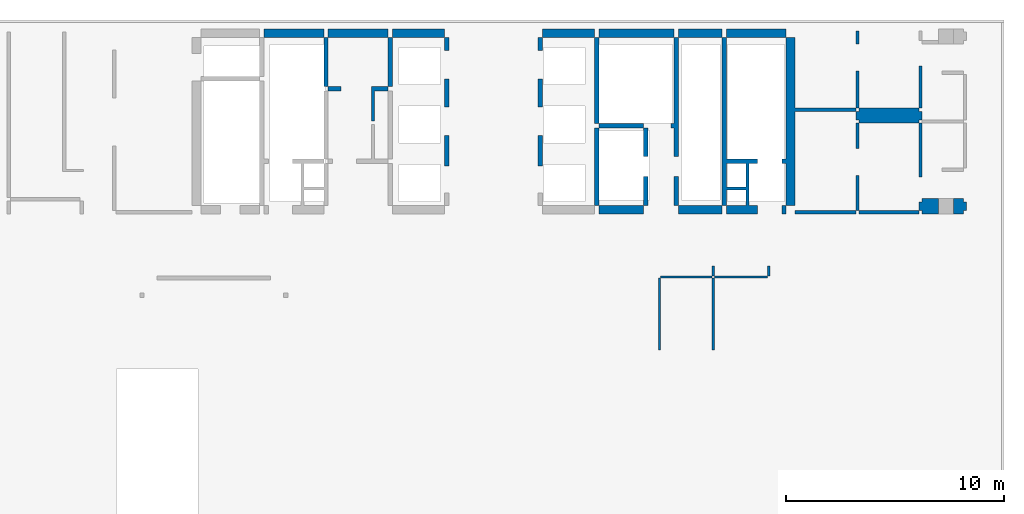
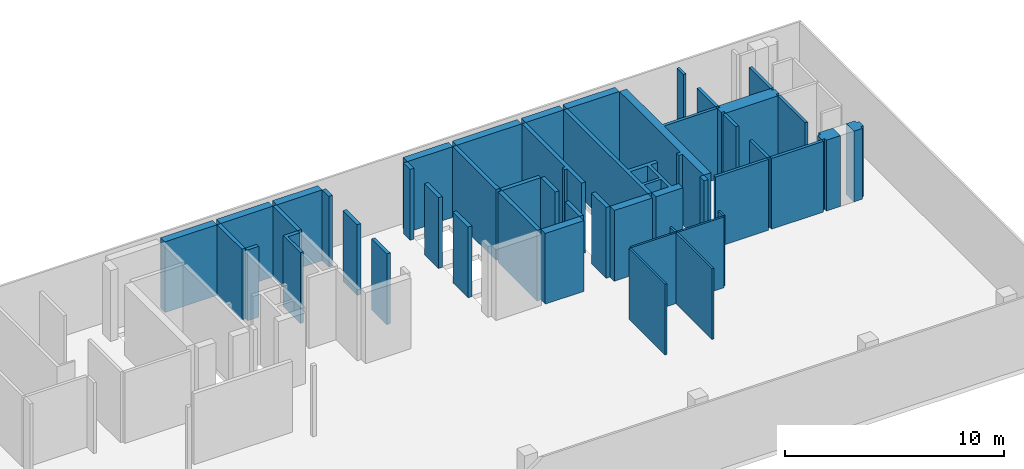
# One storey, part 2 of 4: 46 walls.
"""IFC4 building model written with IfcOpenShell, lengths in millimetres."""

from ifc_helpers import new_model, si_unit, frame, origin, place, context, project, spatial, triangles, element, save


model = new_model("IFC4")

# Units and contexts
model_context = context("Model", 3, precision=0.001, world=origin())
ifc_project = project(units=[si_unit("LENGTHUNIT", "METRE", prefix="MILLI"), si_unit("AREAUNIT", "SQUARE_METRE"), si_unit("VOLUMEUNIT", "CUBIC_METRE")], contexts=[model_context])

# Site, building, storey
site_placement = place(None, origin())
site = spatial("IfcSite", under=ifc_project, at=site_placement, Name="Site", CompositionType="ELEMENT")
building_placement = place(site_placement, origin())
building = spatial("IfcBuilding", under=site, at=building_placement, Name="INNOCEAN", CompositionType="ELEMENT")
storey_placement = place(building_placement, frame((0.0, 0.0, 42800.0)))
storey = spatial("IfcBuildingStorey", under=building, at=storey_placement, Name="F10", CompositionType="ELEMENT", Elevation=42800.0)

# Walls
wall_1_placement = place(storey_placement, origin())
element("IfcWall", 1, at=wall_1_placement, inside=storey, Name="F10_Walls_F10_022", context=model_context, shape_type="Tessellation", body=[
    triangles([(16429.3, 25025.8, 0.0), (19183.7, 25025.8, 0.0), (19183.7, 25025.8, 3950.0), (16429.3, 25025.8, 3950.0), (16429.3, 25419.5, 0.0), (16429.3, 25419.5, 3950.0), (19183.7, 25419.5, 0.0), (19183.7, 25419.5, 3950.0)], [[1, 2, 3], [1, 3, 4], [5, 1, 4], [5, 4, 6], [7, 5, 6], [7, 6, 8], [2, 7, 8], [2, 8, 3], [5, 2, 1], [5, 7, 2], [3, 6, 4], [8, 6, 3]], closed=True),
])
wall_2_placement = place(storey_placement, origin())
element("IfcWall", 2, at=wall_2_placement, inside=storey, Name="F10_Walls_F10_023", context=model_context, shape_type="Tessellation", body=[
    triangles([(34644.0, 13975.7, 0.0), (34542.5, 13975.7, 0.0), (34542.5, 13975.7, 3950.0), (34644.0, 13975.7, 3950.0), (34644.0, 10673.3, 0.0), (34644.0, 10673.3, 3950.0), (34542.5, 10673.3, 0.0), (34542.5, 10673.3, 3950.0)], [[1, 2, 3], [1, 3, 4], [5, 1, 4], [5, 4, 6], [7, 5, 6], [7, 6, 8], [2, 7, 8], [2, 8, 3], [2, 1, 5], [2, 5, 7], [4, 3, 6], [6, 3, 8]], closed=True),
])
wall_3_placement = place(storey_placement, origin())
element("IfcWall", 3, at=wall_3_placement, inside=storey, Name="F10_Walls_F10_025", context=model_context, shape_type="Tessellation", body=[
    triangles([(31826.2, 16922.4, 0.0), (33869.8, 16922.4, 0.0), (33869.8, 16922.4, 3950.0), (31826.2, 16922.4, 3950.0), (31826.2, 17316.1, 3950.0), (31826.2, 17316.1, 0.0), (33869.8, 17316.1, 0.0), (33869.8, 17316.1, 3950.0)], [[1, 2, 3], [1, 3, 4], [1, 4, 5], [6, 1, 5], [7, 6, 5], [7, 5, 8], [7, 8, 3], [2, 7, 3], [6, 2, 1], [6, 7, 2], [3, 5, 4], [8, 5, 3]], closed=True),
])
wall_4_placement = place(storey_placement, origin())
element("IfcWall", 4, at=wall_4_placement, inside=storey, Name="F10_Walls_F10_029", context=model_context, shape_type="Tessellation", body=[
    triangles([(34072.9, 17316.1, 0.0), (34072.9, 18649.7, 0.0), (34072.9, 18649.7, 3950.0), (34072.9, 17316.1, 3950.0), (33869.8, 17316.1, 0.0), (33869.8, 17316.1, 3950.0), (33869.8, 18649.7, 0.0), (33869.8, 18649.7, 3950.0)], [[1, 2, 3], [1, 3, 4], [5, 1, 4], [5, 4, 6], [7, 5, 6], [7, 6, 8], [2, 7, 8], [2, 8, 3], [7, 2, 1], [7, 1, 5], [3, 8, 4], [4, 8, 6]], closed=True),
])
wall_5_placement = place(storey_placement, origin())
element("IfcWall", 5, at=wall_5_placement, inside=storey, Name="F10_Walls_F10_031", context=model_context, shape_type="Tessellation", body=[
    triangles([(31826.2, 20872.5, 0.0), (31826.2, 20872.5, 3950.0), (31826.2, 17316.1, 3950.0), (31826.2, 17316.1, 0.0), (31623.1, 17316.1, 3950.0), (31623.1, 17316.1, 0.0), (31623.1, 20872.5, 3950.0), (31623.1, 20872.5, 0.0)], [[1, 2, 3], [4, 1, 3], [4, 3, 5], [6, 4, 5], [6, 5, 7], [8, 6, 7], [8, 7, 2], [1, 8, 2], [8, 1, 4], [8, 4, 6], [2, 7, 3], [3, 7, 5]], closed=True),
])
wall_6_placement = place(storey_placement, origin())
element("IfcWall", 6, at=wall_6_placement, inside=storey, Name="F10_Walls_F10_034", context=model_context, shape_type="Tessellation", body=[
    triangles([(24730.6, 19119.7, 0.0), (24921.0, 19119.7, 0.0), (24921.0, 19119.7, 3950.0), (24730.6, 19119.7, 3950.0), (24730.6, 19120.0, 0.0), (24730.6, 19120.0, 3950.0), (24730.0, 19120.0, 0.0), (24730.0, 19120.0, 3950.0), (24730.0, 20515.0, 0.0), (24730.0, 20515.0, 3950.0), (24730.6, 20515.0, 0.0), (24730.6, 20515.0, 3950.0), (24730.6, 20516.8, 3950.0), (24730.6, 20516.8, 0.0), (24921.0, 20516.8, 0.0), (24921.0, 20516.8, 3950.0)], [[1, 2, 3], [1, 3, 4], [5, 1, 4], [5, 4, 6], [7, 5, 6], [7, 6, 8], [9, 7, 8], [9, 8, 10], [11, 9, 10], [11, 10, 12], [11, 12, 13], [14, 11, 13], [15, 14, 13], [15, 13, 16], [2, 15, 16], [2, 16, 3], [5, 2, 1], [11, 15, 2], [11, 2, 5], [9, 5, 7], [9, 11, 5], [14, 15, 11], [3, 6, 4], [16, 12, 3], [3, 12, 6], [6, 10, 8], [12, 10, 6], [16, 13, 12]], closed=True),
])
wall_7_placement = place(storey_placement, origin())
element("IfcWall", 7, at=wall_7_placement, inside=storey, Name="F10_Walls_F10_035", context=model_context, shape_type="Tessellation", body=[
    triangles([(29020.0, 20515.0, 0.0), (29020.0, 19120.0, 0.0), (29020.0, 19120.0, 3950.0), (29020.0, 20515.0, 3950.0), (29020.9, 20515.0, 0.0), (29020.9, 20515.0, 3950.0), (29020.9, 20516.8, 3950.0), (29020.9, 20516.8, 0.0), (29224.0, 20516.8, 0.0), (29224.0, 20516.8, 3950.0), (29224.0, 20515.0, 3950.0), (29224.0, 20515.0, 0.0), (29225.0, 20515.0, 0.0), (29225.0, 20515.0, 3950.0), (29225.0, 19120.0, 0.0), (29225.0, 19120.0, 3950.0), (29224.0, 19120.0, 0.0), (29224.0, 19120.0, 3950.0), (29224.0, 19119.7, 0.0), (29224.0, 19119.7, 3950.0), (29020.9, 19119.7, 0.0), (29020.9, 19119.7, 3950.0), (29020.9, 19120.0, 0.0), (29020.9, 19120.0, 3950.0)], [[1, 2, 3], [1, 3, 4], [5, 1, 4], [5, 4, 6], [5, 6, 7], [8, 5, 7], [9, 8, 7], [9, 7, 10], [9, 10, 11], [12, 9, 11], [13, 12, 11], [13, 11, 14], [15, 13, 14], [15, 14, 16], [17, 15, 16], [17, 16, 18], [19, 17, 18], [19, 18, 20], [21, 19, 20], [21, 20, 22], [23, 21, 22], [23, 22, 24], [2, 23, 24], [2, 24, 3], [23, 17, 19], [23, 19, 21], [12, 13, 15], [12, 15, 17], [12, 17, 23], [5, 12, 23], [1, 23, 2], [1, 5, 23], [8, 9, 12], [8, 12, 5], [18, 24, 20], [20, 24, 22], [14, 11, 16], [16, 11, 18], [18, 11, 24], [11, 6, 24], [24, 4, 3], [6, 4, 24], [10, 7, 11], [11, 7, 6]], closed=True),
])
wall_8_placement = place(storey_placement, origin())
element("IfcWall", 8, at=wall_8_placement, inside=storey, Name="F10_Walls_F10_036", context=model_context, shape_type="Tessellation", body=[
    triangles([(33869.8, 19551.5, 0.0), (34072.9, 19551.5, 0.0), (34072.9, 19551.5, 3950.0), (33869.8, 19551.5, 3950.0), (33869.8, 20872.5, 0.0), (33869.8, 20872.5, 3950.0), (34072.9, 20872.5, 0.0), (34072.9, 20872.5, 3950.0)], [[1, 2, 3], [1, 3, 4], [5, 1, 4], [5, 4, 6], [7, 5, 6], [7, 6, 8], [2, 7, 8], [2, 8, 3], [5, 2, 1], [5, 7, 2], [3, 6, 4], [8, 6, 3]], closed=True),
])
wall_9_placement = place(storey_placement, origin())
element("IfcWall", 9, at=wall_9_placement, inside=storey, Name="F10_Walls_F10_037", context=model_context, shape_type="Tessellation", body=[
    triangles([(33869.8, 20872.5, 0.0), (33869.8, 21075.7, 0.0), (33869.8, 21075.7, 3950.0), (33869.8, 20872.5, 3950.0), (31826.2, 20872.5, 0.0), (31826.2, 20872.5, 3950.0), (31826.2, 21075.7, 0.0), (31826.2, 21075.7, 3950.0)], [[1, 2, 3], [1, 3, 4], [5, 1, 4], [5, 4, 6], [7, 5, 6], [7, 6, 8], [2, 7, 8], [2, 8, 3], [7, 2, 1], [7, 1, 5], [3, 8, 4], [4, 8, 6]], closed=True),
])
wall_10_placement = place(storey_placement, origin())
element("IfcWall", 10, at=wall_10_placement, inside=storey, Name="F10_Walls_F10_040", context=model_context, shape_type="Tessellation", body=[
    triangles([(22128.5, 22765.0, 0.0), (22128.5, 22765.0, 3950.0), (22128.5, 22574.4, 3950.0), (22128.5, 22574.4, 0.0), (21519.3, 22574.4, 0.0), (21519.3, 22574.4, 3950.0), (21519.3, 21177.3, 0.0), (21519.3, 21177.3, 3950.0), (21366.9, 21177.3, 0.0), (21366.9, 21177.3, 3950.0), (21366.9, 22574.4, 0.0), (21366.9, 22574.4, 3950.0), (21366.9, 22765.0, 3950.0), (21366.9, 22765.0, 0.0)], [[1, 2, 3], [4, 1, 3], [5, 4, 3], [5, 3, 6], [7, 5, 6], [7, 6, 8], [9, 7, 8], [9, 8, 10], [11, 9, 10], [11, 10, 12], [11, 12, 13], [14, 11, 13], [1, 14, 13], [1, 13, 2], [5, 1, 4], [11, 5, 7], [11, 7, 9], [14, 1, 5], [14, 5, 11], [2, 6, 3], [6, 12, 8], [8, 12, 10], [2, 13, 6], [6, 13, 12]], closed=True),
])
wall_11_placement = place(storey_placement, origin())
element("IfcWall", 11, at=wall_11_placement, inside=storey, Name="F10_Walls_F10_041", context=model_context, shape_type="Tessellation", body=[
    triangles([(29225.0, 23120.0, 0.0), (29225.0, 23120.0, 3950.0), (29225.0, 21825.0, 3950.0), (29225.0, 21825.0, 0.0), (29020.0, 21825.0, 0.0), (29020.0, 21825.0, 3950.0), (29020.0, 23120.0, 3950.0), (29020.0, 23120.0, 0.0), (29020.9, 23120.0, 0.0), (29020.9, 23120.0, 3950.0), (29020.9, 23120.6, 0.0), (29020.9, 23120.6, 3950.0), (29224.0, 23120.6, 0.0), (29224.0, 23120.6, 3950.0), (29224.0, 23120.0, 0.0), (29224.0, 23120.0, 3950.0)], [[1, 2, 3], [4, 1, 3], [5, 4, 3], [5, 3, 6], [5, 6, 7], [8, 5, 7], [9, 8, 7], [9, 7, 10], [11, 9, 10], [11, 10, 12], [13, 11, 12], [13, 12, 14], [15, 13, 14], [15, 14, 16], [1, 15, 16], [1, 16, 2], [15, 1, 4], [15, 4, 5], [9, 15, 5], [11, 13, 15], [11, 15, 9], [8, 9, 5], [2, 16, 3], [3, 16, 6], [16, 10, 6], [14, 12, 16], [16, 12, 10], [10, 7, 6]], closed=True),
])
wall_12_placement = place(storey_placement, origin())
element("IfcWall", 12, at=wall_12_placement, inside=storey, Name="F10_Walls_F10_042", context=model_context, shape_type="Tessellation", body=[
    triangles([(24920.0, 21825.0, 0.0), (24920.0, 21825.1, 0.0), (24920.0, 21825.1, 3950.0), (24920.0, 21825.0, 3950.0), (24730.0, 21825.0, 0.0), (24730.0, 21825.0, 3950.0), (24730.0, 23120.0, 3950.0), (24730.0, 23120.0, 0.0), (24730.6, 23120.0, 0.0), (24730.6, 23120.0, 3950.0), (24730.6, 23120.6, 0.0), (24730.6, 23120.6, 3950.0), (24921.0, 23120.6, 0.0), (24921.0, 23120.6, 3950.0), (24921.0, 21825.1, 0.0), (24921.0, 21825.1, 3950.0)], [[1, 2, 3], [1, 3, 4], [5, 1, 4], [5, 4, 6], [5, 6, 7], [8, 5, 7], [9, 8, 7], [9, 7, 10], [11, 9, 10], [11, 10, 12], [13, 11, 12], [13, 12, 14], [15, 13, 14], [15, 14, 16], [2, 15, 16], [2, 16, 3], [5, 2, 1], [13, 15, 2], [9, 13, 2], [9, 2, 5], [8, 9, 5], [11, 13, 9], [3, 6, 4], [16, 14, 3], [14, 10, 3], [3, 10, 6], [10, 7, 6], [14, 12, 10]], closed=True),
])
wall_13_placement = place(storey_placement, origin())
element("IfcWall", 13, at=wall_13_placement, inside=storey, Name="F10_Walls_F10_043", context=model_context, shape_type="Tessellation", body=[
    triangles([(19374.1, 22574.4, 0.0), (19970.7, 22574.4, 0.0), (19970.7, 22574.4, 3950.0), (19374.1, 22574.4, 3950.0), (19374.1, 22765.0, 3950.0), (19374.1, 22765.0, 0.0), (19970.7, 22765.0, 0.0), (19970.7, 22765.0, 3950.0)], [[1, 2, 3], [1, 3, 4], [1, 4, 5], [6, 1, 5], [7, 6, 5], [7, 5, 8], [7, 8, 3], [2, 7, 3], [6, 2, 1], [6, 7, 2], [3, 5, 4], [8, 5, 3]], closed=True),
])
wall_14_placement = place(storey_placement, origin())
element("IfcWall", 14, at=wall_14_placement, inside=storey, Name="F10_Walls_F10_044", context=model_context, shape_type="Tessellation", body=[
    triangles([(31826.2, 21075.7, 3950.0), (31826.2, 25025.8, 0.0), (31826.2, 25025.8, 3950.0), (31826.2, 21075.7, 0.0), (31623.1, 21075.7, 3950.0), (31623.1, 21075.7, 0.0), (31623.1, 25025.8, 3950.0), (31623.1, 25025.8, 0.0)], [[1, 2, 3], [4, 2, 1], [4, 1, 5], [6, 4, 5], [7, 6, 5], [8, 6, 7], [8, 7, 3], [2, 8, 3], [2, 4, 6], [8, 2, 6], [1, 3, 5], [3, 7, 5]], closed=True),
])
wall_15_placement = place(storey_placement, origin())
element("IfcWall", 15, at=wall_15_placement, inside=storey, Name="F10_Walls_F10_045", context=model_context, shape_type="Tessellation", body=[
    triangles([(19374.1, 22765.0, 0.0), (19374.1, 25025.8, 0.0), (19374.1, 25025.8, 3950.0), (19374.1, 22765.0, 3950.0), (19183.7, 22765.0, 0.0), (19183.7, 22765.0, 3950.0), (19183.7, 25025.8, 0.0), (19183.7, 25025.8, 3950.0)], [[1, 2, 3], [1, 3, 4], [5, 1, 4], [5, 4, 6], [7, 5, 6], [7, 6, 8], [2, 7, 8], [2, 8, 3], [7, 2, 1], [7, 1, 5], [3, 8, 4], [4, 8, 6]], closed=True),
])
wall_16_placement = place(storey_placement, origin())
element("IfcWall", 16, at=wall_16_placement, inside=storey, Name="F10_Walls_F10_046", context=model_context, shape_type="Tessellation", body=[
    triangles([(22128.5, 22765.0, 0.0), (22331.6, 22765.0, 0.0), (22331.6, 22765.0, 3950.0), (22128.5, 22765.0, 3950.0), (22128.5, 25025.8, 0.0), (22128.5, 25025.8, 3950.0), (22331.6, 25025.8, 0.0), (22331.6, 25025.8, 3950.0)], [[1, 2, 3], [1, 3, 4], [5, 1, 4], [5, 4, 6], [7, 5, 6], [7, 6, 8], [2, 7, 8], [2, 8, 3], [5, 2, 1], [5, 7, 2], [3, 6, 4], [8, 6, 3]], closed=True),
])
wall_17_placement = place(storey_placement, origin())
element("IfcWall", 17, at=wall_17_placement, inside=storey, Name="F10_Walls_F10_047", context=model_context, shape_type="Tessellation", body=[
    triangles([(24730.6, 24416.1, 0.0), (24921.0, 24416.1, 0.0), (24921.0, 24416.1, 3950.0), (24730.6, 24416.1, 3950.0), (24730.6, 25025.8, 0.0), (24730.6, 25025.8, 3950.0), (24921.0, 25025.8, 0.0), (24921.0, 25025.8, 3950.0)], [[1, 2, 3], [1, 3, 4], [5, 1, 4], [5, 4, 6], [7, 5, 6], [7, 6, 8], [2, 7, 8], [2, 8, 3], [5, 2, 1], [5, 7, 2], [3, 6, 4], [8, 6, 3]], closed=True),
])
wall_18_placement = place(storey_placement, origin())
element("IfcWall", 18, at=wall_18_placement, inside=storey, Name="F10_Walls_F10_048", context=model_context, shape_type="Tessellation", body=[
    triangles([(29224.0, 24416.1, 0.0), (29224.0, 25025.8, 0.0), (29224.0, 25025.8, 3950.0), (29224.0, 24416.1, 3950.0), (29020.9, 24416.1, 0.0), (29020.9, 24416.1, 3950.0), (29020.9, 25025.8, 0.0), (29020.9, 25025.8, 3950.0)], [[1, 2, 3], [1, 3, 4], [5, 1, 4], [5, 4, 6], [7, 5, 6], [7, 6, 8], [2, 7, 8], [2, 8, 3], [7, 2, 1], [7, 1, 5], [3, 8, 4], [4, 8, 6]], closed=True),
])
wall_19_placement = place(storey_placement, origin())
element("IfcWall", 19, at=wall_19_placement, inside=storey, Name="F10_Walls_F10_049", context=model_context, shape_type="Tessellation", body=[
    triangles([(22128.5, 25025.8, 0.0), (22128.5, 25419.5, 0.0), (22128.5, 25419.5, 3950.0), (22128.5, 25025.8, 3950.0), (19374.1, 25025.8, 0.0), (19374.1, 25025.8, 3950.0), (19374.1, 25419.5, 0.0), (19374.1, 25419.5, 3950.0)], [[1, 2, 3], [1, 3, 4], [5, 1, 4], [5, 4, 6], [7, 5, 6], [7, 6, 8], [2, 7, 8], [2, 8, 3], [7, 2, 1], [7, 1, 5], [3, 8, 4], [4, 8, 6]], closed=True),
])
wall_20_placement = place(storey_placement, origin())
element("IfcWall", 20, at=wall_20_placement, inside=storey, Name="F10_Walls_F10_050", context=model_context, shape_type="Tessellation", body=[
    triangles([(31623.1, 25025.8, 0.0), (31623.1, 25419.5, 0.0), (31623.1, 25419.5, 3950.0), (31623.1, 25025.8, 3950.0), (29224.0, 25025.8, 0.0), (29224.0, 25025.8, 3950.0), (29224.0, 25419.5, 0.0), (29224.0, 25419.5, 3950.0)], [[1, 2, 3], [1, 3, 4], [5, 1, 4], [5, 4, 6], [7, 5, 6], [7, 6, 8], [2, 7, 8], [2, 8, 3], [7, 2, 1], [7, 1, 5], [3, 8, 4], [4, 8, 6]], closed=True),
])
wall_21_placement = place(storey_placement, origin())
element("IfcWall", 21, at=wall_21_placement, inside=storey, Name="F10_Walls_F10_051", context=model_context, shape_type="Tessellation", body=[
    triangles([(22331.6, 25025.8, 0.0), (24730.6, 25025.8, 0.0), (24730.6, 25025.8, 3950.0), (22331.6, 25025.8, 3950.0), (22331.6, 25419.5, 0.0), (22331.6, 25419.5, 3950.0), (24730.6, 25419.5, 0.0), (24730.6, 25419.5, 3950.0)], [[1, 2, 3], [1, 3, 4], [5, 1, 4], [5, 4, 6], [7, 5, 6], [7, 6, 8], [2, 7, 8], [2, 8, 3], [5, 2, 1], [5, 7, 2], [3, 6, 4], [8, 6, 3]], closed=True),
])
wall_22_placement = place(storey_placement, origin())
element("IfcWall", 22, at=wall_22_placement, inside=storey, Name="F10_Walls_F10_052", context=model_context, shape_type="Tessellation", body=[
    triangles([(31826.2, 25025.8, 0.0), (35266.0, 25025.8, 0.0), (35266.0, 25025.8, 3950.0), (31826.2, 25025.8, 3950.0), (31826.2, 25419.5, 0.0), (31826.2, 25419.5, 3950.0), (35266.0, 25419.5, 0.0), (35266.0, 25419.5, 3950.0)], [[1, 2, 3], [1, 3, 4], [5, 1, 4], [5, 4, 6], [7, 5, 6], [7, 6, 8], [2, 7, 8], [2, 8, 3], [5, 2, 1], [5, 7, 2], [3, 6, 4], [8, 6, 3]], closed=True),
])
wall_23_placement = place(storey_placement, origin())
element("IfcWall", 23, at=wall_23_placement, inside=storey, Name="F10_Walls_F10_053", context=model_context, shape_type="Tessellation", body=[
    triangles([(37119.2, 13975.7, 0.0), (37017.7, 13975.7, 0.0), (37017.7, 13975.7, 3950.0), (37119.2, 13975.7, 3950.0), (37119.2, 10673.3, 0.0), (37119.2, 10673.3, 3950.0), (37017.7, 10673.3, 0.0), (37017.7, 10673.3, 3950.0)], [[1, 2, 3], [1, 3, 4], [5, 1, 4], [5, 4, 6], [7, 5, 6], [7, 6, 8], [2, 7, 8], [2, 8, 3], [2, 1, 5], [2, 5, 7], [4, 3, 6], [6, 3, 8]], closed=True),
])
wall_24_placement = place(storey_placement, origin())
element("IfcWall", 24, at=wall_24_placement, inside=storey, Name="F10_Walls_F10_054", context=model_context, shape_type="Tessellation", body=[
    triangles([(37119.2, 13975.7, 0.0), (39569.0, 13975.7, 0.0), (39569.0, 13975.7, 3950.0), (37119.2, 13975.7, 3950.0), (37119.2, 14077.3, 0.0), (37119.2, 14077.3, 3950.0), (39569.0, 14077.3, 0.0), (39569.0, 14077.3, 3950.0)], [[1, 2, 3], [1, 3, 4], [5, 1, 4], [5, 4, 6], [7, 5, 6], [7, 6, 8], [2, 7, 8], [2, 8, 3], [1, 7, 2], [5, 7, 1], [8, 4, 3], [8, 6, 4]], closed=True),
])
wall_25_placement = place(storey_placement, origin())
element("IfcWall", 25, at=wall_25_placement, inside=storey, Name="F10_Walls_F10_055", context=model_context, shape_type="Tessellation", body=[
    triangles([(37017.7, 14077.3, 0.0), (34644.0, 14077.3, 0.0), (34644.0, 14077.3, 3950.0), (37017.7, 14077.3, 3950.0), (37017.7, 13975.7, 0.0), (37017.7, 13975.7, 3950.0), (34644.0, 13975.7, 0.0), (34644.0, 13975.7, 3950.0)], [[1, 2, 3], [1, 3, 4], [5, 1, 4], [5, 4, 6], [7, 5, 6], [7, 6, 8], [2, 7, 8], [2, 8, 3], [2, 1, 5], [2, 5, 7], [4, 3, 6], [6, 3, 8]], closed=True),
])
wall_26_placement = place(storey_placement, origin())
element("IfcWall", 26, at=wall_26_placement, inside=storey, Name="F10_Walls_F10_056", context=model_context, shape_type="Tessellation", body=[
    triangles([(37017.7, 14077.3, 0.0), (37119.2, 14077.3, 0.0), (37119.2, 14077.3, 3950.0), (37017.7, 14077.3, 3950.0), (37017.7, 14521.8, 0.0), (37017.7, 14521.8, 3950.0), (37119.2, 14521.8, 0.0), (37119.2, 14521.8, 3950.0)], [[1, 2, 3], [1, 3, 4], [5, 1, 4], [5, 4, 6], [7, 5, 6], [7, 6, 8], [2, 7, 8], [2, 8, 3], [5, 2, 1], [5, 7, 2], [3, 6, 4], [8, 6, 3]], closed=True),
])
wall_27_placement = place(storey_placement, origin())
element("IfcWall", 27, at=wall_27_placement, inside=storey, Name="F10_Walls_F10_057", context=model_context, shape_type="Tessellation", body=[
    triangles([(39670.6, 14077.3, 0.0), (39670.6, 14521.8, 0.0), (39670.6, 14521.8, 3950.0), (39670.6, 14077.3, 3950.0), (39569.0, 14077.3, 0.0), (39569.0, 14077.3, 3950.0), (39569.0, 14521.8, 0.0), (39569.0, 14521.8, 3950.0)], [[1, 2, 3], [1, 3, 4], [5, 1, 4], [5, 4, 6], [7, 5, 6], [7, 6, 8], [2, 7, 8], [2, 8, 3], [7, 2, 1], [7, 1, 5], [3, 8, 4], [4, 8, 6]], closed=True),
])
wall_28_placement = place(storey_placement, origin())
element("IfcWall", 28, at=wall_28_placement, inside=storey, Name="F10_Walls_F10_058", context=model_context, shape_type="Tessellation", body=[
    triangles([(35469.1, 16922.4, 0.0), (35469.1, 16922.4, 3950.0), (35469.1, 17316.1, 3950.0), (35469.1, 17316.1, 0.0), (37474.6, 17316.1, 0.0), (37474.6, 17316.1, 3950.0), (37474.6, 16922.4, 3950.0), (37474.6, 16922.4, 0.0)], [[1, 2, 3], [4, 1, 3], [5, 4, 3], [5, 3, 6], [5, 6, 7], [8, 5, 7], [1, 8, 7], [1, 7, 2], [4, 5, 8], [4, 8, 1], [6, 3, 7], [7, 3, 2]], closed=True),
])
wall_29_placement = place(storey_placement, origin())
element("IfcWall", 29, at=wall_29_placement, inside=storey, Name="F10_Walls_F10_059", context=model_context, shape_type="Tessellation", body=[
    triangles([(37474.6, 17316.1, 0.0), (37665.0, 17316.1, 0.0), (37665.0, 17316.1, 3950.0), (37474.6, 17316.1, 3950.0), (37665.0, 16922.4, 0.0), (37665.0, 16922.4, 3950.0), (39099.4, 16922.4, 0.0), (39099.4, 16922.4, 3950.0), (39099.4, 17316.1, 0.0), (39099.4, 17316.1, 3950.0), (38720.0, 17316.1, 0.0), (38720.0, 17316.1, 3950.0), (38720.0, 19245.0, 0.0), (38720.0, 19245.0, 3950.0), (39100.0, 19245.0, 0.0), (39100.0, 19245.0, 3950.0), (39100.0, 19450.0, 0.0), (39100.0, 19450.0, 3950.0), (37665.0, 19450.0, 0.0), (37665.0, 19450.0, 3950.0), (37665.0, 25025.8, 0.0), (37665.0, 25025.8, 3950.0), (37474.6, 25025.8, 0.0), (37474.6, 25025.8, 3950.0), (37474.6, 19449.9, 0.0), (37474.6, 19449.9, 3950.0), (37665.0, 18014.7, 0.0), (37665.0, 18014.7, 3950.0), (38565.0, 18014.7, 0.0), (38565.0, 18014.7, 3950.0), (38565.0, 17316.1, 0.0), (38565.0, 17316.1, 3950.0), (37665.0, 19245.0, 0.0), (38565.0, 19245.0, 0.0), (38565.0, 19245.0, 3950.0), (37665.0, 19245.0, 3950.0), (38565.0, 18167.1, 0.0), (38565.0, 18167.1, 3950.0), (37665.0, 18167.1, 0.0), (37665.0, 18167.1, 3950.0)], [[1, 2, 3], [1, 3, 4], [5, 6, 3], [2, 5, 3], [5, 7, 8], [5, 8, 6], [9, 10, 8], [7, 9, 8], [9, 11, 12], [9, 12, 10], [11, 13, 14], [11, 14, 12], [15, 16, 14], [13, 15, 14], [15, 17, 18], [15, 18, 16], [17, 19, 20], [17, 20, 18], [19, 21, 22], [19, 22, 20], [21, 23, 24], [21, 24, 22], [23, 25, 26], [23, 26, 24], [25, 1, 4], [25, 4, 26], [2, 27, 28], [2, 28, 3], [27, 29, 30], [27, 30, 28], [29, 31, 32], [29, 32, 30], [31, 2, 3], [31, 3, 32], [33, 34, 35], [33, 35, 36], [34, 37, 38], [34, 38, 35], [37, 39, 40], [37, 40, 38], [39, 33, 36], [39, 36, 40], [11, 9, 7], [31, 11, 7], [5, 31, 7], [29, 11, 31], [2, 31, 5], [27, 2, 1], [39, 29, 27], [39, 37, 29], [39, 27, 1], [13, 17, 15], [34, 13, 37], [34, 17, 13], [19, 34, 33], [19, 17, 34], [25, 33, 39], [25, 19, 33], [25, 39, 1], [23, 21, 19], [23, 19, 25], [13, 11, 29], [13, 29, 37], [10, 12, 8], [12, 32, 8], [32, 6, 8], [12, 30, 32], [32, 3, 6], [3, 28, 4], [30, 40, 28], [38, 40, 30], [28, 40, 4], [18, 14, 16], [14, 35, 38], [18, 35, 14], [35, 20, 36], [18, 20, 35], [36, 26, 40], [20, 26, 36], [40, 26, 4], [22, 24, 20], [20, 24, 26], [12, 14, 30], [30, 14, 38]], closed=True),
])
wall_30_placement = place(storey_placement, origin())
element("IfcWall", 30, at=wall_30_placement, inside=storey, Name="F10_Walls_F10_060", context=model_context, shape_type="Tessellation", body=[
    triangles([(35266.0, 17316.1, 0.0), (35469.1, 17316.1, 0.0), (35469.1, 17316.1, 3950.0), (35266.0, 17316.1, 3950.0), (35266.0, 18649.7, 0.0), (35266.0, 18649.7, 3950.0), (35469.1, 18649.7, 0.0), (35469.1, 18649.7, 3950.0)], [[1, 2, 3], [1, 3, 4], [5, 1, 4], [5, 4, 6], [7, 5, 6], [7, 6, 8], [2, 7, 8], [2, 8, 3], [5, 2, 1], [5, 7, 2], [3, 6, 4], [8, 6, 3]], closed=True),
])
wall_31_placement = place(storey_placement, origin())
element("IfcWall", 31, at=wall_31_placement, inside=storey, Name="F10_Walls_F10_061", context=model_context, shape_type="Tessellation", body=[
    triangles([(40215.0, 19450.0, 0.0), (40215.0, 19450.0, 3950.0), (40419.5, 19450.0, 3950.0), (40419.5, 19450.0, 0.0), (40419.5, 25025.8, 0.0), (40419.5, 25025.8, 3950.0), (40813.0, 25025.8, 0.0), (40813.0, 25025.8, 3950.0), (40813.0, 21774.3, 0.0), (40813.0, 21774.3, 3950.0), (43618.2, 21774.3, 0.0), (43618.2, 21774.3, 3950.0), (43618.2, 21621.8, 0.0), (43618.2, 21621.8, 3950.0), (40813.0, 21621.8, 0.0), (40813.0, 21621.8, 3950.0), (40813.0, 19449.9, 0.0), (40813.0, 19449.9, 3950.0), (40813.0, 17316.1, 0.0), (40813.0, 17316.1, 3950.0), (40419.5, 17316.1, 0.0), (40419.5, 17316.1, 3950.0), (40419.5, 19245.0, 0.0), (40419.5, 19245.0, 3950.0), (40215.0, 19245.0, 3950.0), (40215.0, 19245.0, 0.0)], [[1, 2, 3], [4, 1, 3], [5, 4, 3], [5, 3, 6], [7, 5, 6], [7, 6, 8], [9, 7, 8], [9, 8, 10], [11, 9, 10], [11, 10, 12], [13, 11, 12], [13, 12, 14], [15, 13, 14], [15, 14, 16], [17, 15, 16], [17, 16, 18], [19, 17, 18], [19, 18, 20], [21, 19, 20], [21, 20, 22], [23, 21, 22], [23, 22, 24], [23, 24, 25], [26, 23, 25], [1, 26, 25], [1, 25, 2], [23, 17, 19], [23, 19, 21], [4, 23, 26], [4, 17, 23], [1, 4, 26], [15, 17, 4], [9, 11, 13], [9, 13, 15], [5, 7, 9], [4, 5, 9], [4, 9, 15], [18, 24, 20], [20, 24, 22], [24, 3, 25], [18, 3, 24], [3, 2, 25], [18, 16, 3], [12, 10, 14], [14, 10, 16], [8, 6, 10], [6, 3, 10], [10, 3, 16]], closed=True),
])
wall_32_placement = place(storey_placement, origin())
element("IfcWall", 32, at=wall_32_placement, inside=storey, Name="F10_Walls_F10_062", context=model_context, shape_type="Tessellation", body=[
    triangles([(35266.0, 21075.7, 0.0), (35126.4, 21075.7, 0.0), (35126.4, 21075.7, 3950.0), (35266.0, 21075.7, 3950.0), (35266.0, 25025.8, 3950.0), (35266.0, 25025.8, 0.0), (35469.1, 25025.8, 0.0), (35469.1, 25025.8, 3950.0), (35469.1, 21075.7, 3950.0), (35469.1, 21075.7, 0.0), (35469.1, 20872.5, 0.0), (35469.1, 20872.5, 3950.0), (35469.1, 19551.5, 0.0), (35469.1, 19551.5, 3950.0), (35266.0, 19551.5, 0.0), (35266.0, 19551.5, 3950.0), (35266.0, 20872.5, 0.0), (35266.0, 20872.5, 3950.0), (35126.4, 20872.5, 0.0), (35126.4, 20872.5, 3950.0)], [[1, 2, 3], [1, 3, 4], [5, 1, 4], [6, 1, 5], [7, 6, 5], [7, 5, 8], [9, 7, 8], [10, 7, 9], [11, 10, 9], [11, 9, 12], [13, 11, 12], [13, 12, 14], [15, 13, 14], [15, 14, 16], [17, 15, 16], [17, 16, 18], [19, 17, 18], [19, 18, 20], [2, 19, 20], [2, 20, 3], [17, 11, 13], [17, 13, 15], [10, 11, 17], [1, 10, 17], [2, 17, 19], [2, 1, 17], [6, 7, 10], [6, 10, 1], [12, 18, 14], [14, 18, 16], [12, 9, 18], [9, 4, 18], [18, 3, 20], [4, 3, 18], [8, 5, 9], [9, 5, 4]], closed=True),
])
wall_33_placement = place(storey_placement, origin())
element("IfcWall", 33, at=wall_33_placement, inside=storey, Name="F10_Walls_F10_063", context=model_context, shape_type="Tessellation", body=[
    triangles([(35469.1, 25025.8, 0.0), (37474.6, 25025.8, 0.0), (37474.6, 25025.8, 3950.0), (35469.1, 25025.8, 3950.0), (35469.1, 25419.5, 0.0), (35469.1, 25419.5, 3950.0), (37474.6, 25419.5, 0.0), (37474.6, 25419.5, 3950.0)], [[1, 2, 3], [1, 3, 4], [5, 1, 4], [5, 4, 6], [7, 5, 6], [7, 6, 8], [2, 7, 8], [2, 8, 3], [5, 2, 1], [5, 7, 2], [3, 6, 4], [8, 6, 3]], closed=True),
])
wall_34_placement = place(storey_placement, origin())
element("IfcWall", 34, at=wall_34_placement, inside=storey, Name="F10_Walls_F10_064", context=model_context, shape_type="Tessellation", body=[
    triangles([(37665.0, 25025.8, 0.0), (40419.5, 25025.8, 0.0), (40419.5, 25025.8, 3950.0), (37665.0, 25025.8, 3950.0), (37665.0, 25419.5, 0.0), (37665.0, 25419.5, 3950.0), (40419.5, 25419.5, 0.0), (40419.5, 25419.5, 3950.0)], [[1, 2, 3], [1, 3, 4], [5, 1, 4], [5, 4, 6], [7, 5, 6], [7, 6, 8], [2, 7, 8], [2, 8, 3], [5, 2, 1], [5, 7, 2], [3, 6, 4], [8, 6, 3]], closed=True),
])
wall_35_placement = place(storey_placement, origin())
element("IfcWall", 35, at=wall_35_placement, inside=storey, Name="F10_Walls_F10_065", context=model_context, shape_type="Tessellation", body=[
    triangles([(46512.2, 16922.4, 0.0), (46512.2, 17074.8, 0.0), (46512.2, 17074.8, 3950.0), (46512.2, 16922.4, 3950.0), (43770.5, 16922.4, 0.0), (43770.5, 16922.4, 3950.0), (43770.5, 17074.8, 0.0), (43770.5, 17074.8, 3950.0)], [[1, 2, 3], [1, 3, 4], [5, 1, 4], [5, 4, 6], [7, 5, 6], [7, 6, 8], [2, 7, 8], [2, 8, 3], [7, 2, 1], [7, 1, 5], [3, 8, 4], [4, 8, 6]], closed=True),
])
wall_36_placement = place(storey_placement, origin())
element("IfcWall", 36, at=wall_36_placement, inside=storey, Name="F10_Walls_F10_066", context=model_context, shape_type="Tessellation", body=[
    triangles([(43618.2, 16922.4, 0.0), (43618.2, 17074.8, 0.0), (43618.2, 17074.8, 3950.0), (43618.2, 16922.4, 3950.0), (40813.0, 16922.4, 0.0), (40813.0, 16922.4, 3950.0), (40813.0, 17074.8, 0.0), (40813.0, 17074.8, 3950.0)], [[1, 2, 3], [1, 3, 4], [5, 1, 4], [5, 4, 6], [7, 5, 6], [7, 6, 8], [2, 7, 8], [2, 8, 3], [5, 2, 1], [7, 2, 5], [3, 6, 4], [3, 8, 6]], closed=True),
])
wall_37_placement = place(storey_placement, origin())
element("IfcWall", 37, at=wall_37_placement, inside=storey, Name="F10_Walls_F10_067", context=model_context, shape_type="Tessellation", body=[
    triangles([(48568.5, 17620.9, 0.0), (48111.6, 17620.9, 0.0), (48111.6, 17620.9, 3950.0), (48568.5, 17620.9, 3950.0), (48568.5, 17468.5, 0.0), (48568.5, 17468.5, 3950.0), (48708.1, 17468.5, 0.0), (48708.1, 17468.5, 3950.0), (48708.1, 17074.8, 0.0), (48708.1, 17074.8, 3950.0), (48568.5, 17074.8, 0.0), (48568.5, 17074.8, 3950.0), (48568.5, 16922.4, 0.0), (48568.5, 16922.4, 3950.0), (48111.6, 16922.4, 0.0), (48111.6, 16922.4, 3950.0), (48111.6, 17074.8, 0.0), (48111.6, 17074.8, 3950.0), (48111.6, 17468.5, 0.0), (48111.6, 17468.5, 3950.0)], [[1, 2, 3], [1, 3, 4], [5, 1, 4], [5, 4, 6], [7, 5, 6], [7, 6, 8], [9, 7, 8], [9, 8, 10], [11, 9, 10], [11, 10, 12], [13, 11, 12], [13, 12, 14], [15, 13, 14], [15, 14, 16], [17, 15, 16], [17, 16, 18], [19, 17, 18], [19, 18, 20], [2, 19, 20], [2, 20, 3], [5, 7, 9], [5, 9, 11], [17, 11, 13], [17, 13, 15], [17, 5, 11], [19, 5, 17], [2, 1, 5], [2, 5, 19], [8, 6, 10], [10, 6, 12], [12, 18, 14], [14, 18, 16], [6, 18, 12], [6, 20, 18], [4, 3, 6], [6, 3, 20]], closed=True),
])
wall_38_placement = place(storey_placement, origin())
element("IfcWall", 38, at=wall_38_placement, inside=storey, Name="F10_Walls_F10_068", context=model_context, shape_type="Tessellation", body=[
    triangles([(46664.5, 17468.5, 0.0), (46512.2, 17468.5, 0.0), (46512.2, 17468.5, 3950.0), (46664.5, 17468.5, 3950.0), (46664.5, 17620.9, 0.0), (46664.5, 17620.9, 3950.0), (47413.4, 17620.9, 0.0), (47413.4, 17620.9, 3950.0), (47413.4, 17468.5, 0.0), (47413.4, 17468.5, 3950.0), (47413.4, 17074.8, 0.0), (47413.4, 17074.8, 3950.0), (47413.4, 16922.4, 0.0), (47413.4, 16922.4, 3950.0), (46664.5, 16922.4, 0.0), (46664.5, 16922.4, 3950.0), (46664.5, 17074.8, 0.0), (46664.5, 17074.8, 3950.0), (46512.2, 17074.8, 0.0), (46512.2, 17074.8, 3950.0)], [[1, 2, 3], [1, 3, 4], [5, 1, 4], [5, 4, 6], [7, 5, 6], [7, 6, 8], [9, 7, 8], [9, 8, 10], [11, 9, 10], [11, 10, 12], [13, 11, 12], [13, 12, 14], [15, 13, 14], [15, 14, 16], [17, 15, 16], [17, 16, 18], [19, 17, 18], [19, 18, 20], [2, 19, 20], [2, 20, 3], [15, 11, 13], [17, 11, 15], [1, 9, 11], [1, 17, 19], [1, 11, 17], [2, 1, 19], [5, 7, 9], [5, 9, 1], [12, 16, 14], [12, 18, 16], [10, 4, 12], [18, 4, 20], [12, 4, 18], [4, 3, 20], [8, 6, 10], [10, 6, 4]], closed=True),
])
wall_39_placement = place(storey_placement, origin())
element("IfcWall", 39, at=wall_39_placement, inside=storey, Name="F10_Walls_F10_069", context=model_context, shape_type="Tessellation", body=[
    triangles([(40216.4, 16922.4, 0.0), (40419.5, 16922.4, 0.0), (40419.5, 16922.4, 3950.0), (40216.4, 16922.4, 3950.0), (40216.4, 17316.1, 3950.0), (40216.4, 17316.1, 0.0), (40419.5, 17316.1, 0.0), (40419.5, 17316.1, 3950.0)], [[1, 2, 3], [1, 3, 4], [1, 4, 5], [6, 1, 5], [7, 6, 5], [7, 5, 8], [7, 8, 3], [2, 7, 3], [6, 2, 1], [6, 7, 2], [3, 5, 4], [8, 5, 3]], closed=True),
])
wall_40_placement = place(storey_placement, origin())
element("IfcWall", 40, at=wall_40_placement, inside=storey, Name="F10_Walls_F10_070", context=model_context, shape_type="Tessellation", body=[
    triangles([(43770.5, 17074.8, 0.0), (43770.5, 18675.1, 0.0), (43770.5, 18675.1, 3950.0), (43770.5, 17074.8, 3950.0), (43618.2, 17074.8, 0.0), (43618.2, 17074.8, 3950.0), (43618.2, 18675.1, 0.0), (43618.2, 18675.1, 3950.0)], [[1, 2, 3], [1, 3, 4], [5, 1, 4], [5, 4, 6], [7, 5, 6], [7, 6, 8], [2, 7, 8], [2, 8, 3], [2, 1, 5], [7, 2, 5], [4, 3, 6], [3, 8, 6]], closed=True),
])
wall_41_placement = place(storey_placement, origin())
element("IfcWall", 41, at=wall_41_placement, inside=storey, Name="F10_Walls_F10_072", context=model_context, shape_type="Tessellation", body=[
    triangles([(46664.5, 18624.3, 0.0), (46664.5, 21101.1, 0.0), (46664.5, 21101.1, 3950.0), (46664.5, 18624.3, 3950.0), (46512.2, 18624.3, 0.0), (46512.2, 18624.3, 3950.0), (46512.2, 21101.1, 0.0), (46512.2, 21101.1, 3950.0)], [[1, 2, 3], [1, 3, 4], [5, 1, 4], [5, 4, 6], [7, 5, 6], [7, 6, 8], [2, 7, 8], [2, 8, 3], [7, 2, 1], [7, 1, 5], [3, 8, 4], [4, 8, 6]], closed=True),
])
wall_42_placement = place(storey_placement, origin())
element("IfcWall", 42, at=wall_42_placement, inside=storey, Name="F10_Walls_F10_074", context=model_context, shape_type="Tessellation", body=[
    triangles([(43618.2, 19919.9, 0.0), (43770.5, 19919.9, 0.0), (43770.5, 19919.9, 3950.0), (43618.2, 19919.9, 3950.0), (43618.2, 21101.1, 0.0), (43618.2, 21101.1, 3950.0), (43770.5, 21101.1, 0.0), (43770.5, 21101.1, 3950.0)], [[1, 2, 3], [1, 3, 4], [5, 1, 4], [5, 4, 6], [7, 5, 6], [7, 6, 8], [2, 7, 8], [2, 8, 3], [5, 2, 1], [5, 7, 2], [3, 6, 4], [8, 6, 3]], closed=True),
])
wall_43_placement = place(storey_placement, origin())
element("IfcWall", 43, at=wall_43_placement, inside=storey, Name="F10_Walls_F10_075", context=model_context, shape_type="Tessellation", body=[
    triangles([(43770.5, 21774.3, 0.0), (43770.5, 21621.8, 0.0), (43770.5, 21621.8, 3950.0), (43770.5, 21774.3, 3950.0), (46512.2, 21774.3, 0.0), (46512.2, 21774.3, 3950.0), (46512.2, 21621.8, 0.0), (46512.2, 21621.8, 3950.0), (46664.5, 21621.8, 0.0), (46664.5, 21621.8, 3950.0), (46664.5, 21240.8, 3950.0), (46664.5, 21240.8, 0.0), (46512.2, 21240.8, 0.0), (46512.2, 21240.8, 3950.0), (46512.2, 21101.1, 3950.0), (46512.2, 21101.1, 0.0), (43770.5, 21101.1, 0.0), (43770.5, 21101.1, 3950.0), (43770.5, 21240.0, 0.0), (43770.5, 21240.0, 3950.0), (43770.0, 21240.0, 0.0), (43770.0, 21240.0, 3950.0), (43770.0, 21240.8, 0.0), (43770.0, 21240.8, 3950.0), (43618.2, 21240.8, 3950.0), (43618.2, 21240.8, 0.0), (43618.2, 21621.8, 3950.0), (43618.2, 21621.8, 0.0)], [[1, 2, 3], [1, 3, 4], [5, 1, 4], [5, 4, 6], [7, 5, 6], [7, 6, 8], [9, 7, 8], [9, 8, 10], [9, 10, 11], [12, 9, 11], [13, 12, 11], [13, 11, 14], [13, 14, 15], [16, 13, 15], [17, 16, 15], [17, 15, 18], [19, 17, 18], [19, 18, 20], [21, 19, 20], [21, 20, 22], [23, 21, 22], [23, 22, 24], [23, 24, 25], [26, 23, 25], [26, 25, 27], [28, 26, 27], [2, 28, 27], [2, 27, 3], [9, 12, 13], [7, 9, 13], [19, 13, 16], [19, 16, 17], [23, 19, 21], [2, 7, 13], [2, 13, 19], [2, 19, 23], [28, 23, 26], [28, 2, 23], [1, 5, 7], [1, 7, 2], [11, 10, 14], [10, 8, 14], [14, 20, 15], [15, 20, 18], [20, 24, 22], [8, 3, 14], [14, 3, 20], [20, 3, 24], [24, 27, 25], [3, 27, 24], [6, 4, 8], [8, 4, 3]], closed=True),
])
wall_44_placement = place(storey_placement, origin())
element("IfcWall", 44, at=wall_44_placement, inside=storey, Name="F10_Walls_F10_078", context=model_context, shape_type="Tessellation", body=[
    triangles([(43618.2, 21774.3, 0.0), (43770.5, 21774.3, 0.0), (43770.5, 21774.3, 3950.0), (43618.2, 21774.3, 3950.0), (43618.2, 23476.2, 0.0), (43618.2, 23476.2, 3950.0), (43770.5, 23476.2, 0.0), (43770.5, 23476.2, 3950.0)], [[1, 2, 3], [1, 3, 4], [5, 1, 4], [5, 4, 6], [7, 5, 6], [7, 6, 8], [2, 7, 8], [2, 8, 3], [5, 2, 1], [5, 7, 2], [3, 6, 4], [8, 6, 3]], closed=True),
])
wall_45_placement = place(storey_placement, origin())
element("IfcWall", 45, at=wall_45_placement, inside=storey, Name="F10_Walls_F10_079", context=model_context, shape_type="Tessellation", body=[
    triangles([(46664.5, 21774.3, 0.0), (46664.5, 23717.6, 0.0), (46664.5, 23717.6, 3950.0), (46664.5, 21774.3, 3950.0), (46512.2, 21774.3, 0.0), (46512.2, 21774.3, 3950.0), (46512.2, 23717.6, 0.0), (46512.2, 23717.6, 3950.0)], [[1, 2, 3], [1, 3, 4], [5, 1, 4], [5, 4, 6], [7, 5, 6], [7, 6, 8], [2, 7, 8], [2, 8, 3], [7, 2, 1], [7, 1, 5], [3, 8, 4], [4, 8, 6]], closed=True),
])
wall_46_placement = place(storey_placement, origin())
element("IfcWall", 46, at=wall_46_placement, inside=storey, Name="F10_Walls_F10_083", context=model_context, shape_type="Tessellation", body=[
    triangles([(43620.0, 24721.0, 0.0), (43620.0, 24721.0, 3950.0), (43618.2, 24721.0, 3950.0), (43618.2, 24721.0, 0.0), (43618.2, 25317.9, 0.0), (43618.2, 25317.9, 3950.0), (43620.0, 25317.9, 3950.0), (43620.0, 25317.9, 0.0), (43620.0, 25320.0, 0.0), (43620.0, 25320.0, 3950.0), (43770.0, 25320.0, 3950.0), (43770.0, 25320.0, 0.0), (43770.0, 25317.9, 0.0), (43770.0, 25317.9, 3950.0), (43770.5, 25317.9, 0.0), (43770.5, 25317.9, 3950.0), (43770.5, 24721.0, 0.0), (43770.5, 24721.0, 3950.0), (43770.0, 24721.0, 0.0), (43770.0, 24721.0, 3950.0), (43770.0, 24720.0, 0.0), (43770.0, 24720.0, 3950.0), (43620.0, 24720.0, 3950.0), (43620.0, 24720.0, 0.0)], [[1, 2, 3], [4, 1, 3], [5, 4, 3], [5, 3, 6], [5, 6, 7], [8, 5, 7], [9, 8, 7], [9, 7, 10], [9, 10, 11], [12, 9, 11], [13, 12, 11], [13, 11, 14], [15, 13, 14], [15, 14, 16], [17, 15, 16], [17, 16, 18], [19, 17, 18], [19, 18, 20], [21, 19, 20], [21, 20, 22], [21, 22, 23], [24, 21, 23], [1, 24, 23], [1, 23, 2], [1, 19, 21], [1, 21, 24], [15, 17, 19], [13, 19, 1], [13, 15, 19], [8, 13, 1], [5, 1, 4], [5, 8, 1], [9, 12, 13], [9, 13, 8], [20, 2, 22], [22, 2, 23], [18, 16, 20], [20, 14, 2], [16, 14, 20], [14, 7, 2], [2, 6, 3], [7, 6, 2], [11, 10, 14], [14, 10, 7]], closed=True),
])

save(model, "model.ifc")
